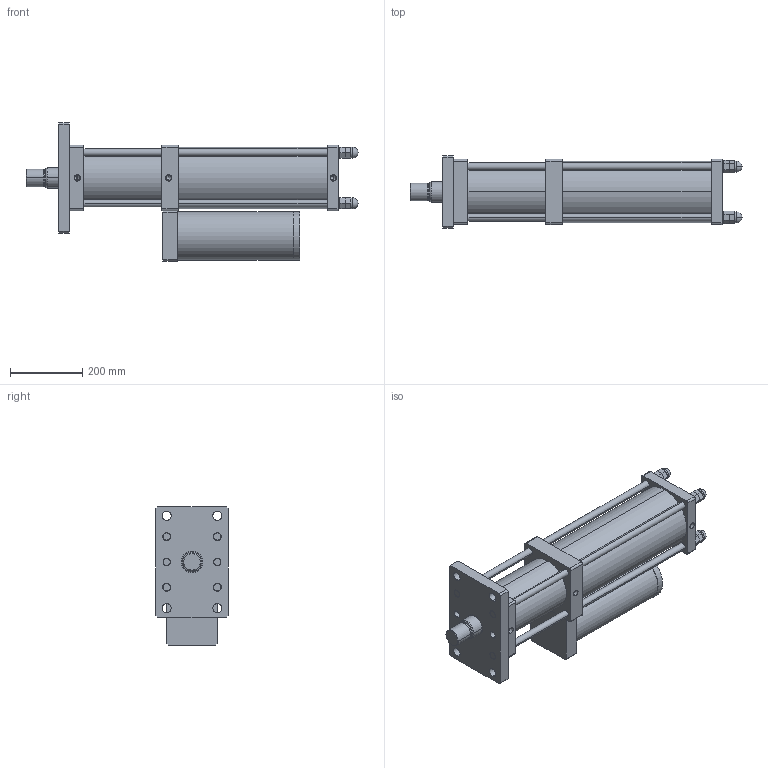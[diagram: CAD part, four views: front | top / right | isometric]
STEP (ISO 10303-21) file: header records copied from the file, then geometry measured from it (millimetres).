
FILE_DESCRIPTION (( 'STEP AP203' ), '1' );
FILE_NAME ('CPT-125-150-20-20T.STEP', '2016-03-12T02:01:43', ( 'WIN' ), ( '' ), 'SwSTEP 2.0', 'SolidWorks 2014', '' );
FILE_SCHEMA (( 'CONFIG_CONTROL_DESIGN' ));
Length unit declared in the file: millimetre
Products named in the file (1): CPT-125-150-20-20T
Bounding box: 916 x 200 x 382.5 mm (x, y, z)
Volume: 20914200.2 mm3; surface area: 1386598 mm2
Topology: 17 solids, 17 shells, 318 faces, 726 edges, 454 vertices
Faces by surface type: plane 154, cylinder 122, cone 30, sphere 8, torus 4
Entity records: 8889 total; most frequent: DIRECTION 1638, CARTESIAN_POINT 1467, ORIENTED_EDGE 1404, EDGE_CURVE 702, AXIS2_PLACEMENT_3D 617, VERTEX_POINT 446, VECTOR 404, LINE 404
